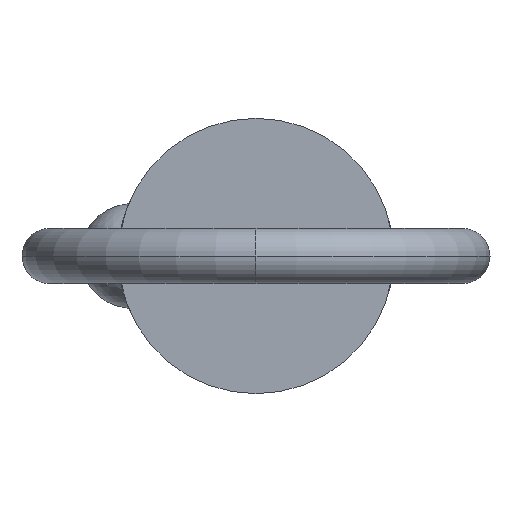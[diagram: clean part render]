
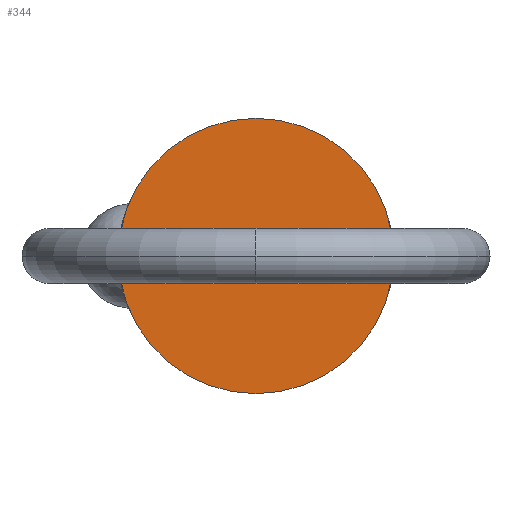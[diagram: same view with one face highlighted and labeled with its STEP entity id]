
A CAD part, left-side view. The second image highlights one B-rep face of the part: STEP entity #344.
In plain terms, the highlighted planar face has unit normal (-1, 0, 0).
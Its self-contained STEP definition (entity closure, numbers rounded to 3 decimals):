
#43 = EDGE_LOOP ( 'NONE', ( #607, #237 ) ) ;
#137 = FACE_OUTER_BOUND ( 'NONE', #43, .T. ) ;
#142 = DIRECTION ( 'NONE',  ( 1., 0., 0. ) ) ;
#147 = DIRECTION ( 'NONE',  ( -1., 0., 0. ) ) ;
#149 = AXIS2_PLACEMENT_3D ( 'NONE', #893, #147, #222 ) ;
#200 = DIRECTION ( 'NONE',  ( 0., 0., -1. ) ) ;
#222 = DIRECTION ( 'NONE',  ( 0., 0., 1. ) ) ;
#237 = ORIENTED_EDGE ( 'NONE', *, *, #447, .F. ) ;
#343 = CIRCLE ( 'NONE', #706, 12.7 ) ;
#344 = ADVANCED_FACE ( 'NONE', ( #137 ), #522, .T. ) ;
#447 = EDGE_CURVE ( 'NONE', #769, #569, #343, .T. ) ;
#449 = DIRECTION ( 'NONE',  ( 0., 0., -1. ) ) ;
#518 = CARTESIAN_POINT ( 'NONE',  ( 0., 0., 0. ) ) ;
#522 = PLANE ( 'NONE',  #149 ) ;
#560 = CARTESIAN_POINT ( 'NONE',  ( 0., 0., -12.7 ) ) ;
#569 = VERTEX_POINT ( 'NONE', #560 ) ;
#582 = CARTESIAN_POINT ( 'NONE',  ( 0., 0., 12.7 ) ) ;
#585 = EDGE_CURVE ( 'NONE', #569, #769, #749, .T. ) ;
#607 = ORIENTED_EDGE ( 'NONE', *, *, #585, .F. ) ;
#646 = DIRECTION ( 'NONE',  ( 1., 0., 0. ) ) ;
#706 = AXIS2_PLACEMENT_3D ( 'NONE', #518, #142, #449 ) ;
#749 = CIRCLE ( 'NONE', #937, 12.7 ) ;
#769 = VERTEX_POINT ( 'NONE', #582 ) ;
#804 = CARTESIAN_POINT ( 'NONE',  ( 0., 0., 0. ) ) ;
#893 = CARTESIAN_POINT ( 'NONE',  ( 0., 0., 0. ) ) ;
#937 = AXIS2_PLACEMENT_3D ( 'NONE', #804, #646, #200 ) ;
